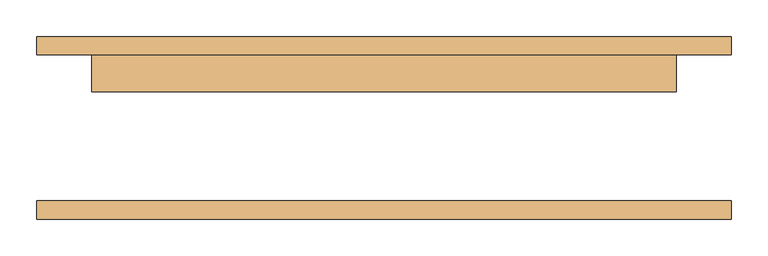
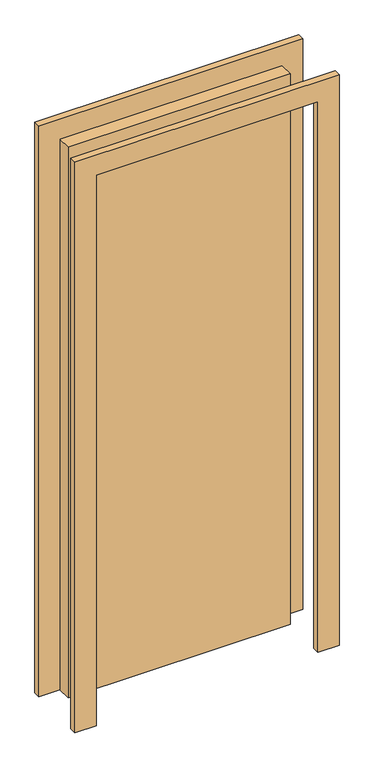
"""IFC4 building model written with IfcOpenShell, lengths in millimetres: door geometry, M_Однопольные-Щитовые : 21х8."""

from ifc_helpers import new_model, si_unit, frame, origin, origin_with_axes, place, context, project, spatial, polyline, outline, extrude, source, transform, mapped, element, save


def door_3bf131ec(model_context):
    return source(origin(), model_context, "Body", "SweptSolid", [
        extrude(outline(polyline([(2176.0, -476.0), (0.0, -476.0), (0.0, -400.0), (2100.0, -400.0), (2100.0, 400.0), (0.0, 400.0), (0.0, 476.0), (2176.0, 476.0), (2176.0, -476.0)])), frame((0.0, 100.0, 0.0), z_axis=(0.0, 1.0, 0.0), x_axis=(0.0, 0.0, 1.0)), (0.0, 0.0, 1.0), 25.0),
        extrude(outline(polyline([(2176.0, 476.0), (2176.0, -476.0), (0.0, -476.0), (0.0, -400.0), (2100.0, -400.0), (2100.0, 400.0), (0.0, 400.0), (0.0, 476.0), (2176.0, 476.0)])), frame((0.0, -125.0, 0.0), z_axis=(0.0, 1.0, 0.0), x_axis=(0.0, 0.0, 1.0)), (0.0, 0.0, 1.0), 25.0),
        extrude(outline(polyline([(400.0, 49.0), (-400.0, 49.0), (-400.0, 100.0), (400.0, 100.0), (400.0, 49.0)])), origin_with_axes(), (0.0, 0.0, 1.0), 2100.0),
    ])


if __name__ == "__main__":
    model = new_model("IFC4")
    model_context = context("Model", 3, world=origin())
    ifc_project = project(units=[si_unit("LENGTHUNIT", "METRE", prefix="MILLI")], contexts=[model_context])
    site = spatial("IfcSite", under=ifc_project)
    building = spatial("IfcBuilding", under=site)
    placement = place(None, origin())
    door_shape = door_3bf131ec(model_context)
    element("IfcDoor", 1, ObjectType="M_Однопольные-Щитовые : 21х8", at=placement, inside=building, context=model_context, shape_type="MappedRepresentation", body=[
        mapped(door_shape, transform((0.0, 0.0, 0.0), x_axis=(1.0, 0.0, 0.0), y_axis=(0.0, 1.0, 0.0), z_axis=(0.0, 0.0, 1.0))),
    ])
    save(model, "model.ifc")
